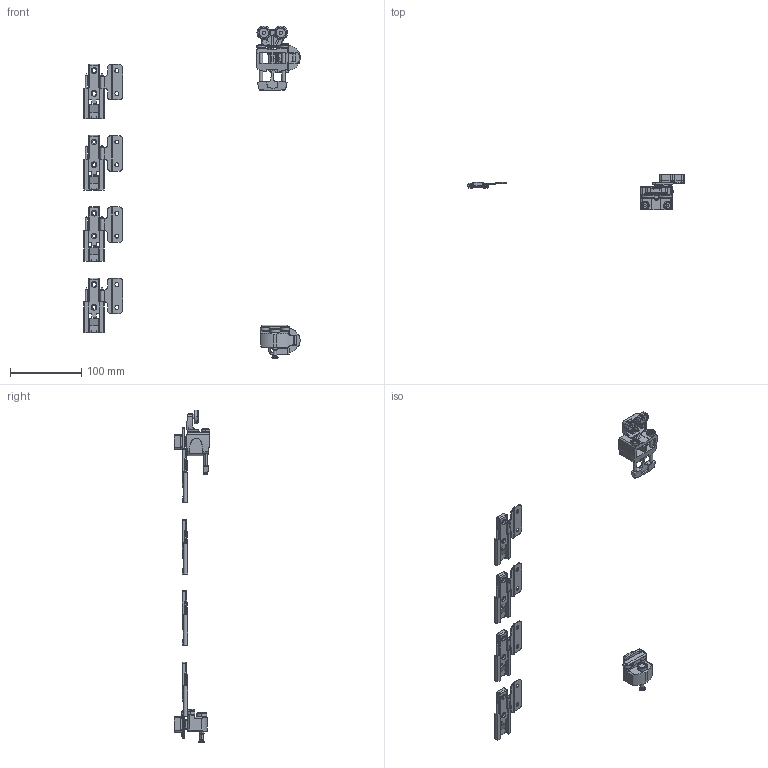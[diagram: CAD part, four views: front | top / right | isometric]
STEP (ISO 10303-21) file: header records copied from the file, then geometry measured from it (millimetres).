
FILE_DESCRIPTION( ( '' ), '1' );
FILE_NAME( 'D:/temp/hettich_stp/hettich/4_folding_sliding/4.4_folding_door/10kg_wl_780_wl_780_alu/set_wl_780_right/70972.stp', '2013-02-26T10:20:09', ( '' ), ( '' ), ' ', ' ', ' ' );
FILE_SCHEMA( ( 'automotive_design' ) );
Length unit declared in the file: millimetre
Products named in the file (10): 1; 2; 3; 4; 5; 6; 7; 8; 9; 10
Bounding box: 303.7 x 49.98 x 465.8 mm (x, y, z)
Volume: 106383.5 mm3; surface area: 77594.6 mm2
Topology: 10 solids, 10 shells, 1271 faces, 3570 edges, 2339 vertices
Faces by surface type: plane 703, cylinder 478, cone 54, torus 34, sphere 2
Entity records: 82603 total; most frequent: CARTESIAN_POINT 8826, STYLED_ITEM 7188, PRESENTATION_STYLE_ASSIGNMENT 7188, COLOUR_RGB 7188, DIRECTION 7140, ORIENTED_EDGE 7136, EDGE_CURVE 3568, CURVE_STYLE 3568
